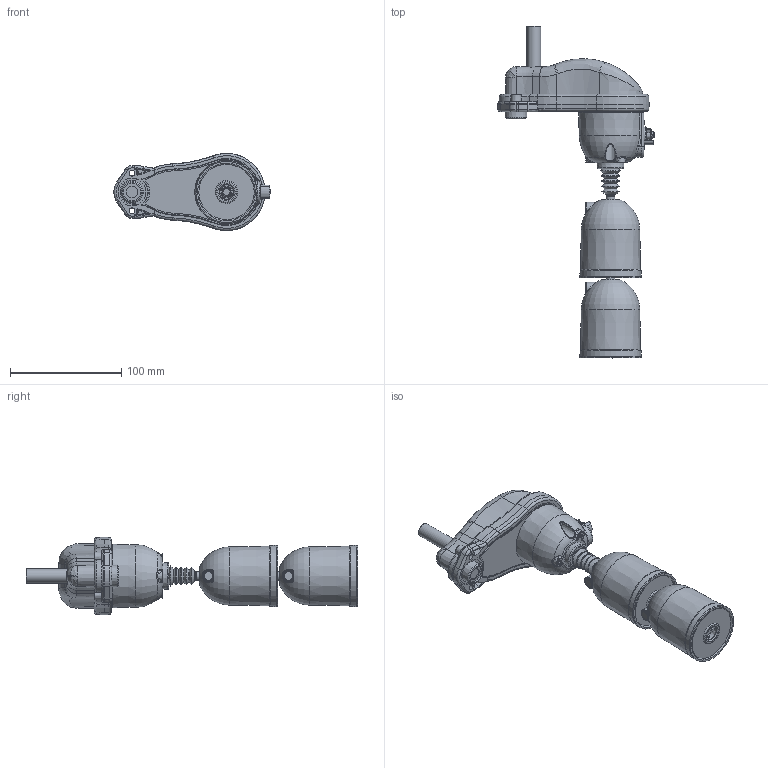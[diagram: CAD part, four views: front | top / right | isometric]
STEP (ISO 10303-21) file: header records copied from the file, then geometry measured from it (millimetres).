
FILE_DESCRIPTION(/* description */ ('Unknown'),/* implementation_level */ '2;1');
FILE_NAME(/* name */ '72C1 catalogo sistemato',/* time_stamp */ '2021-02-12T11:05:48+01:00',/* author */ ('Unknown'),/* organization */ ('Unknown'),/* preprocessor_version */ 'ST-DEVELOPER v16.7',/* originating_system */ 'DEX',/* authorisation */ $);
FILE_SCHEMA (('AUTOMOTIVE_DESIGN {1 0 10303 214 3 1 1}'));
Length unit declared in the file: millimetre
Products named in the file (1): 72C1 catalogo sistemato
Bounding box: 140.49 x 298.5 x 69.57 mm (x, y, z)
Surface area: 86768.8 mm2 (no closed solid volume)
Topology: 0 solids, 28 shells, 632 faces, 1657 edges, 1053 vertices
Faces by surface type: plane 209, torus 138, cone 125, bspline 88, cylinder 72
Full cylindrical faces by diameter (mm): 2.7 x4, 5.2 x2, 7 x2, 7.7 x3, 7.9 x1, 8.2 x2, 9 x1, 10 x2, 12.6 x1, 13 x1, 19 x1, 55 x2
Entity records: 24581 total; most frequent: CARTESIAN_POINT 9970, DIRECTION 2920, ORIENTED_EDGE 2775, EDGE_CURVE 1503, AXIS2_PLACEMENT_3D 1195, VERTEX_POINT 1031, EDGE_LOOP 809, FACE_BOUND 809
